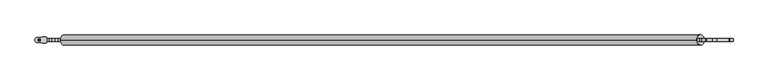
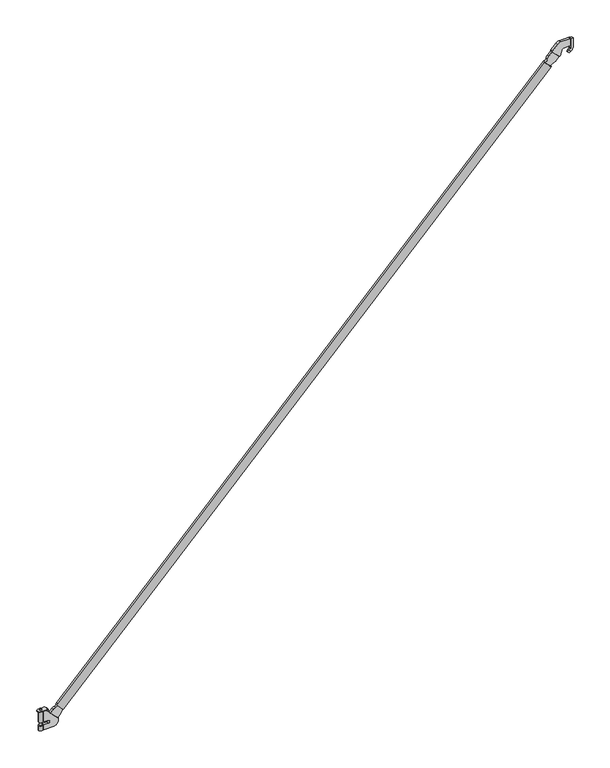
"""IFC4 building model written with IfcOpenShell, lengths in millimetres: proxy geometry, アルバトロスＡＫ階段手摺_軽 : アルバトロスＡＫ階段手摺_軽."""

from ifc_helpers import new_model, si_unit, point, frame, frame_2d, origin, place, context, project, spatial, polyline, circle_curve, trimmed, segment, composite_curve, outline, extrude, source, transform, mapped, element, save
from ifc_brep_helpers import plane_surface, cylinder_surface, revolved_surface, advanced_brep


def generic_models_849db72a(model_context):
    return source(origin(), model_context, "Body", "SolidModel", [
        extrude(outline(composite_curve([segment(trimmed(circle_curve(frame_2d((0.0, -13.6)), 13.6), [point((0.0, -27.2))], [point((0.0, 0.0))], False, "CARTESIAN"), True, "CONTINUOUS"), segment(trimmed(circle_curve(frame_2d((0.0, -13.6)), 13.6), [point((0.0, 0.0))], [point((0.0, -27.2))], False, "CARTESIAN"), True, "CONTINUOUS")], self_intersect=False)), frame((-1725.2374588, 0.0, -1771.0507162), z_axis=(0.6921431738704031, 0.0, 0.7217602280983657), x_axis=(0.0, -1.0, 0.0)), (0.0, 0.0, 1.0), 2390.0),
        extrude(outline(polyline([(5.9999999, 0.0), (5.9999999, -8.0), (0.0, -5.9891696), (0.0, -2.0108304), (5.9999999, 0.0)])), frame((-8.4686009, 4.0, -21.1588161), z_axis=(-0.7071067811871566, 0.0, 0.7071067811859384), x_axis=(0.7071067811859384, 0.0, 0.7071067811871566)), (0.0, 0.0, 1.0), 8.0),
        advanced_brep(
        [(-1797.0, 0.0, -1748.2), (-1803.0, 0.0, -1748.2), (-1802.0, 0.0, -1747.2), (-1798.0, 0.0, -1747.2), (-1797.0, 0.0, -1752.7), (-1803.0, 0.0, -1752.7), (-1800.0, 0.0, -1752.7), (-1800.0, 0.0, -1747.2)],
        [
            (0, 1, circle_curve(frame((-1800.0, 0.0, -1748.2), z_axis=(0.0, 0.0, 1.0), x_axis=(-1.0, 0.0, 0.0)), 3.0)),
            (1, 2),
            (2, 3, circle_curve(frame((-1800.0, 0.0, -1747.2), z_axis=(0.0, 0.0, -1.0), x_axis=(-1.0, 0.0, 0.0)), 2.0)),
            (3, 0),
            (1, 0, circle_curve(frame((-1800.0, 0.0, -1748.2), z_axis=(0.0, 0.0, 1.0), x_axis=(-1.0, 0.0, 0.0)), 3.0)),
            (3, 2, circle_curve(frame((-1800.0, 0.0, -1747.2), z_axis=(0.0, 0.0, -1.0), x_axis=(-1.0, 0.0, 0.0)), 2.0)),
            (4, 5, circle_curve(frame((-1800.0, 0.0, -1752.7), z_axis=(0.0, 0.0, 1.0), x_axis=(-1.0, 0.0, 0.0)), 3.0)),
            (5, 1),
            (0, 4),
            (5, 4, circle_curve(frame((-1800.0, 0.0, -1752.7), z_axis=(0.0, 0.0, 1.0), x_axis=(-1.0, 0.0, 0.0)), 3.0)),
            (6, 5),
            (4, 6),
            (2, 7),
            (7, 3),
        ],
        [
            revolved_surface(polyline([(-1802.0, 0.0, -1747.2), (-1803.0, 0.0, -1748.2)]), (-1800.0, 0.0, -1727.7), (0.0, 0.0, -1.0)),
            cylinder_surface(frame((-1800.0, 0.0, -1727.7), z_axis=(0.0, 0.0, -1.0), x_axis=(-1.0, 0.0, 0.0)), 3.0),
            plane_surface(frame((-1800.0, 0.0, -1752.7), z_axis=(0.0, 0.0, -1.0), x_axis=(-1.0, 0.0, 0.0))),
            plane_surface(frame((-1800.0, 0.0, -1747.2), z_axis=(0.0, 0.0, 1.0), x_axis=(-1.0, 0.0, 0.0))),
        ],
        [
            (0, [[1, 2, 3, 4]]),
            (0, [[5, -4, 6, -2]]),
            (1, [[7, 8, -1, 9]]),
            (1, [[10, -9, -5, -8]]),
            (2, [[11, -7, 12]]),
            (2, [[-12, -10, -11]]),
            (3, [[-3, 13, 14]]),
            (3, [[-6, -14, -13]]),
        ],
    ),
        extrude(outline(composite_curve([segment(trimmed(circle_curve(frame_2d((-1805.0, 0.0)), 6.35), [point((-1811.2985169, 0.8069599))], [point((-1805.0, 6.35))], False, "CARTESIAN"), True, "CONTINUOUS"), segment(polyline([(-1805.0, 6.35), (-1795.0, 6.35), (-1793.35, 8.0), (-1782.0, 8.0), (-1780.0, 6.0), (-1780.0, -6.0), (-1782.0, -8.0), (-1793.35, -8.0), (-1795.0, -6.35), (-1805.0, -6.35)]), True, "CONTINUOUS"), segment(trimmed(circle_curve(frame_2d((-1805.0, 0.0)), 6.35), [point((-1805.0, -6.35))], [point((-1811.2985169, 0.8069599))], False, "CARTESIAN"), True, "CONTINUOUS")], self_intersect=False)), frame((0.0, 0.0, -1755.0), z_axis=(0.0, 0.0, 1.0), x_axis=(1.0, 0.0, 0.0)), (0.0, 0.0, 1.0), 2.3),
        extrude(outline(composite_curve([segment(trimmed(circle_curve(frame_2d((-1800.0, 0.0)), 6.4), [point((-1806.4, 0.0))], [point((-1793.6, 0.0))], False, "CARTESIAN"), True, "CONTINUOUS"), segment(trimmed(circle_curve(frame_2d((-1800.0, 0.0)), 6.4), [point((-1793.6, 0.0))], [point((-1806.4, 0.0))], False, "CARTESIAN"), True, "CONTINUOUS")], self_intersect=False)), frame((0.0, 0.0, -1793.0), z_axis=(0.0, 0.0, 1.0), x_axis=(1.0, 0.0, 0.0)), (0.0, 0.0, 1.0), 38.0),
        extrude(outline(composite_curve([segment(trimmed(circle_curve(frame_2d((-1800.0, 0.0)), 6.4), [point((-1806.4, 0.0))], [point((-1793.6, 0.0))], False, "CARTESIAN"), True, "CONTINUOUS"), segment(trimmed(circle_curve(frame_2d((-1800.0, 0.0)), 6.4), [point((-1793.6, 0.0))], [point((-1806.4, 0.0))], False, "CARTESIAN"), True, "CONTINUOUS")], self_intersect=False)), frame((0.0, 0.0, -1823.0), z_axis=(0.0, 0.0, 1.0), x_axis=(1.0, 0.0, 0.0)), (0.0, 0.0, 1.0), 17.0),
        extrude(outline(composite_curve([segment(trimmed(circle_curve(frame_2d((-1800.0, 0.0)), 4.0), [point((-1804.0, 0.0))], [point((-1796.0, 0.0))], False, "CARTESIAN"), True, "CONTINUOUS"), segment(trimmed(circle_curve(frame_2d((-1800.0, 0.0)), 4.0), [point((-1796.0, 0.0))], [point((-1804.0, 0.0))], False, "CARTESIAN"), True, "CONTINUOUS")], self_intersect=False)), frame((0.0, 0.0, -1806.0), z_axis=(0.0, 0.0, 1.0), x_axis=(1.0, 0.0, 0.0)), (0.0, 0.0, 1.0), 13.0),
        advanced_brep(
        [(-1793.65, -4.0, -1793.0), (-1790.65, -4.0, -1796.0), (-1775.65, -4.0, -1796.0), (-1775.65, -4.0, -1806.0), (-1791.65, -4.0, -1806.0), (-1793.65, -4.0, -1808.0), (-1793.65, -4.0, -1821.0), (-1791.65, -4.0, -1823.0), (-1757.65, -4.0, -1823.0), (-1742.65, -4.0, -1808.0), (-1742.65, -4.0, -1798.8468906), (-1743.2581744, -4.0, -1797.410638), (-1774.129564, -4.0, -1767.4941802), (-1775.65, -4.0, -1763.9035487), (-1775.65, -4.0, -1758.0), (-1778.65, -4.0, -1755.0), (-1791.65, -4.0, -1755.0), (-1793.65, -4.0, -1757.0), (-1793.65, 4.0, -1793.0), (-1793.65, 4.0, -1757.0), (-1791.65, 4.0, -1755.0), (-1778.65, 4.0, -1755.0), (-1775.65, 4.0, -1758.0), (-1775.65, 4.0, -1763.9035487), (-1774.129564, 4.0, -1767.4941802), (-1743.2581744, 4.0, -1797.410638), (-1742.65, 4.0, -1798.8468906), (-1742.65, 4.0, -1808.0), (-1757.65, 4.0, -1823.0), (-1791.65, 4.0, -1823.0), (-1793.65, 4.0, -1821.0), (-1793.65, 4.0, -1808.0), (-1791.65, 4.0, -1806.0), (-1775.65, 4.0, -1806.0), (-1775.7, 4.0, -1796.00025), (-1790.65, 4.0, -1796.0)],
        [
            (0, 1),
            (1, 2),
            (2, 3, circle_curve(frame((-1775.65, -4.0, -1801.0), z_axis=(0.0, 1.0, 0.0), x_axis=(1.0, 0.0, 0.0)), 5.0)),
            (3, 4),
            (4, 5, circle_curve(frame((-1791.65, -4.0, -1808.0), z_axis=(0.0, -1.0, 0.0), x_axis=(1.0, 0.0, 0.0)), 2.0)),
            (5, 6),
            (6, 7, circle_curve(frame((-1791.65, -4.0, -1821.0), z_axis=(0.0, -1.0, 0.0), x_axis=(1.0, 0.0, 0.0)), 2.0)),
            (7, 8),
            (8, 9, circle_curve(frame((-1757.65, -4.0, -1808.0), z_axis=(0.0, -1.0, 0.0), x_axis=(1.0, 0.0, 0.0)), 15.0)),
            (9, 10),
            (10, 11, circle_curve(frame((-1744.65, -4.0, -1798.8468906), z_axis=(0.0, -1.0, 0.0), x_axis=(1.0, 0.0, 0.0)), 2.0)),
            (11, 12),
            (12, 13, circle_curve(frame((-1770.65, -4.0, -1763.9035487), z_axis=(0.0, 1.0, 0.0), x_axis=(1.0, 0.0, 0.0)), 5.0)),
            (13, 14),
            (14, 15, circle_curve(frame((-1778.65, -4.0, -1758.0), z_axis=(0.0, -1.0, 0.0), x_axis=(1.0, 0.0, 0.0)), 3.0)),
            (15, 16),
            (16, 17, circle_curve(frame((-1791.65, -4.0, -1757.0), z_axis=(0.0, -1.0, 0.0), x_axis=(1.0, 0.0, 0.0)), 2.0)),
            (17, 0),
            (18, 19),
            (19, 20, circle_curve(frame((-1791.65, 4.0, -1757.0), z_axis=(0.0, 1.0, 0.0), x_axis=(1.0, 0.0, 0.0)), 2.0)),
            (20, 21),
            (21, 22, circle_curve(frame((-1778.65, 4.0, -1758.0), z_axis=(0.0, 1.0, 0.0), x_axis=(1.0, 0.0, 0.0)), 3.0)),
            (22, 23),
            (23, 24, circle_curve(frame((-1770.65, 4.0, -1763.9035487), z_axis=(0.0, -1.0, 0.0), x_axis=(1.0, 0.0, 0.0)), 5.0)),
            (24, 25),
            (25, 26, circle_curve(frame((-1744.65, 4.0, -1798.8468906), z_axis=(0.0, 1.0, 0.0), x_axis=(1.0, 0.0, 0.0)), 2.0)),
            (26, 27),
            (27, 28, circle_curve(frame((-1757.65, 4.0, -1808.0), z_axis=(0.0, 1.0, 0.0), x_axis=(1.0, 0.0, 0.0)), 15.0)),
            (28, 29),
            (29, 30, circle_curve(frame((-1791.65, 4.0, -1821.0), z_axis=(0.0, 1.0, 0.0), x_axis=(1.0, 0.0, 0.0)), 2.0)),
            (30, 31),
            (31, 32, circle_curve(frame((-1791.65, 4.0, -1808.0), z_axis=(0.0, 1.0, 0.0), x_axis=(1.0, 0.0, 0.0)), 2.0)),
            (32, 33),
            (33, 34, circle_curve(frame((-1775.65, 4.0, -1801.0), z_axis=(0.0, -1.0, 0.0), x_axis=(1.0, 0.0, 0.0)), 5.0)),
            (34, 35),
            (35, 18),
            (0, 18),
            (35, 1),
            (34, 2),
            (33, 3),
            (32, 4),
            (31, 5),
            (30, 6),
            (29, 7),
            (28, 8),
            (27, 9),
            (26, 10),
            (25, 11),
            (24, 12),
            (23, 13),
            (22, 14),
            (21, 15),
            (20, 16),
            (19, 17),
        ],
        [
            plane_surface(frame((-1790.65, -4.0, -1796.0), z_axis=(0.0, -1.0, 0.0), x_axis=(0.7071067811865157, 0.0, -0.7071067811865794))),
            plane_surface(frame((-1790.65, 4.0, -1796.0), z_axis=(0.0, 1.0, 0.0), x_axis=(-0.7071067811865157, 0.0, 0.7071067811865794))),
            plane_surface(frame((-1793.65, -4.0, -1793.0), z_axis=(-0.7071067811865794, 0.0, -0.7071067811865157), x_axis=(0.0, 1.0, 0.0))),
            plane_surface(frame((-1790.65, -4.0, -1796.0), z_axis=(0.0, 0.0, -1.0), x_axis=(0.0, 1.0, 0.0))),
            revolved_surface(polyline([(-1770.65, 4.0, -1801.0), (-1770.65, -4.0, -1801.0)]), (-1775.65, 4.0, -1801.0), (0.0, 1.0, 0.0)),
            plane_surface(frame((-1775.65, -4.0, -1806.0), z_axis=(0.0, 0.0, 1.0), x_axis=(0.0, 1.0, 0.0))),
            cylinder_surface(frame((-1791.65, 4.0, -1808.0), z_axis=(0.0, -1.0, 0.0), x_axis=(1.0, 0.0, 0.0)), 2.0),
            plane_surface(frame((-1793.65, -4.0, -1808.0), z_axis=(-1.0, 0.0, -1.1245158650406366e-12), x_axis=(0.0, 1.0, 0.0))),
            cylinder_surface(frame((-1791.65, 4.0, -1821.0), z_axis=(0.0, -1.0, 0.0), x_axis=(1.0, 0.0, 0.0)), 2.0),
            plane_surface(frame((-1791.65, -4.0, -1823.0), z_axis=(0.0, 0.0, -1.0), x_axis=(0.0, 1.0, 0.0))),
            cylinder_surface(frame((-1757.65, 4.0, -1808.0), z_axis=(0.0, -1.0, 0.0), x_axis=(1.0, 0.0, 0.0)), 15.0),
            plane_surface(frame((-1742.65, -4.0, -1808.0), z_axis=(1.0, 0.0, 0.0), x_axis=(0.0, 1.0, 0.0))),
            cylinder_surface(frame((-1744.65, 4.0, -1798.8468906), z_axis=(0.0, -1.0, 0.0), x_axis=(1.0, 0.0, 0.0)), 2.0),
            plane_surface(frame((-1743.2581744, -4.0, -1797.410638), z_axis=(0.6959127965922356, 0.0, 0.7181262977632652), x_axis=(0.0, 1.0, 0.0))),
            revolved_surface(polyline([(-1765.65, 4.0, -1763.9035487), (-1765.65, -4.0, -1763.9035487)]), (-1770.65, 4.0, -1763.9035487), (0.0, 1.0, 0.0)),
            plane_surface(frame((-1775.65, -4.0, -1763.9035487), z_axis=(1.0, 0.0, 0.0), x_axis=(0.0, 1.0, 0.0))),
            cylinder_surface(frame((-1778.65, 4.0, -1758.0), z_axis=(0.0, -1.0, 0.0), x_axis=(1.0, 0.0, 0.0)), 3.0),
            plane_surface(frame((-1778.65, -4.0, -1755.0), z_axis=(0.0, 0.0, 1.0), x_axis=(0.0, 1.0, 0.0))),
            cylinder_surface(frame((-1791.65, 4.0, -1757.0), z_axis=(0.0, -1.0, 0.0), x_axis=(1.0, 0.0, 0.0)), 2.0),
            plane_surface(frame((-1793.65, -4.0, -1757.0), z_axis=(-1.0, 0.0, 0.0), x_axis=(0.0, 1.0, 0.0))),
        ],
        [
            (0, [[1, 2, 3, 4, 5, 6, 7, 8, 9, 10, 11, 12, 13, 14, 15, 16, 17, 18]]),
            (1, [[19, 20, 21, 22, 23, 24, 25, 26, 27, 28, 29, 30, 31, 32, 33, 34, 35, 36]]),
            (2, [[-1, 37, -36, 38]]),
            (3, [[-2, -38, -35, 39]]),
            (4, [[-3, -39, -34, 40]]),
            (5, [[-4, -40, -33, 41]]),
            (6, [[-5, -41, -32, 42]]),
            (7, [[-6, -42, -31, 43]]),
            (8, [[-7, -43, -30, 44]]),
            (9, [[-8, -44, -29, 45]]),
            (10, [[-9, -45, -28, 46]]),
            (11, [[-10, -46, -27, 47]]),
            (12, [[-11, -47, -26, 48]]),
            (13, [[-12, -48, -25, 49]]),
            (14, [[-13, -49, -24, 50]]),
            (15, [[-14, -50, -23, 51]]),
            (16, [[-15, -51, -22, 52]]),
            (17, [[-16, -52, -21, 53]]),
            (18, [[-17, -53, -20, 54]]),
            (19, [[-18, -54, -19, -37]]),
        ],
    ),
        advanced_brep(
        [(-66.4321236, -4.0, 5.6321638), (-66.3723001, -4.0, 2.803792), (-63.5819308, -4.0, 0.13011), (-63.0472996, -4.0, -0.5563383), (-45.278795, -4.0, -17.5818035), (-42.6553945, -4.0, -19.939903), (-39.3778097, -4.0, -19.1409139), (-32.1921587, -4.0, 1.9667971), (-29.352211, -4.0, 4.0), (-7.0, -4.0, 4.0), (-4.0, -4.0, 7.0), (-4.0, -4.0, 27.0), (-6.0, -4.0, 29.0), (-37.6251322, -4.0, 29.0), (-48.4515356, -4.0, 24.3821476), (-66.4321236, 4.0, 5.6321638), (-48.4515356, 4.0, 24.3821476), (-37.6251322, 4.0, 29.0), (-6.0, 4.0, 29.0), (-4.0, 4.0, 27.0), (-4.0, 4.0, 7.0), (-7.0, 4.0, 4.0), (-29.352211, 4.0, 4.0), (-32.1921587, 4.0, 1.9667971), (-39.3778097, 4.0, -19.1409139), (-42.6553945, 4.0, -19.939903), (-45.278795, 4.0, -17.5818035), (-63.0714942, 4.0, -0.5331554), (-63.5819308, 4.0, 0.13011), (-66.3723, 4.0, 2.8037922)],
        [
            (0, 1, circle_curve(frame((-64.9886032, -4.0, 4.2478775), z_axis=(0.0, -1.0, 0.0), x_axis=(1.0, 0.0, 0.0)), 2.0)),
            (1, 2),
            (2, 3),
            (3, 4),
            (4, 5),
            (5, 6, circle_curve(frame((-41.2711082, -4.0, -18.4963825), z_axis=(0.0, -1.0, 0.0), x_axis=(1.0, 0.0, 0.0)), 2.0)),
            (6, 7),
            (7, 8, circle_curve(frame((-29.352211, -4.0, 1.0), z_axis=(0.0, 1.0, 0.0), x_axis=(1.0, 0.0, 0.0)), 3.0)),
            (8, 9),
            (9, 10),
            (10, 11),
            (11, 12, circle_curve(frame((-6.0, -4.0, 27.0), z_axis=(0.0, -1.0, 0.0), x_axis=(1.0, 0.0, 0.0)), 2.0)),
            (12, 13),
            (13, 14, circle_curve(frame((-37.6251322, -4.0, 14.0), z_axis=(0.0, -1.0, 0.0), x_axis=(1.0, 0.0, 0.0)), 15.0)),
            (14, 0),
            (15, 16),
            (16, 17, circle_curve(frame((-37.6251322, 4.0, 14.0), z_axis=(0.0, 1.0, 0.0), x_axis=(1.0, 0.0, 0.0)), 15.0)),
            (17, 18),
            (18, 19, circle_curve(frame((-6.0, 4.0, 27.0), z_axis=(0.0, 1.0, 0.0), x_axis=(1.0, 0.0, 0.0)), 2.0)),
            (19, 20),
            (20, 21),
            (21, 22),
            (22, 23, circle_curve(frame((-29.352211, 4.0, 1.0), z_axis=(0.0, -1.0, 0.0), x_axis=(1.0, 0.0, 0.0)), 3.0)),
            (23, 24),
            (24, 25, circle_curve(frame((-41.2711082, 4.0, -18.4963825), z_axis=(0.0, 1.0, 0.0), x_axis=(1.0, 0.0, 0.0)), 2.0)),
            (25, 26),
            (26, 27),
            (27, 28),
            (28, 29),
            (29, 15, circle_curve(frame((-64.9886032, 4.0, 4.2478775), z_axis=(0.0, 1.0, 0.0), x_axis=(1.0, 0.0, 0.0)), 2.0)),
            (0, 15),
            (29, 1),
            (28, 2),
            (27, 3),
            (26, 4),
            (25, 5),
            (24, 6),
            (23, 7),
            (22, 8),
            (21, 9),
            (20, 10),
            (19, 11),
            (18, 12),
            (17, 13),
            (16, 14),
        ],
        [
            plane_surface(frame((-62.9886032, -4.0, 4.2478775), z_axis=(0.0, -1.0, 0.0), x_axis=(0.0, 0.0, 1.0))),
            plane_surface(frame((-62.9886032, 4.0, 4.2478775), z_axis=(0.0, 1.0, 0.0), x_axis=(0.0, 0.0, -1.0))),
            cylinder_surface(frame((-64.9886032, 4.0, 4.2478775), z_axis=(0.0, -1.0, 0.0), x_axis=(1.0, 0.0, 0.0)), 2.0),
            plane_surface(frame((-66.3723, -4.0, 2.8037922), z_axis=(-0.6918484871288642, 0.0, -0.7220427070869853), x_axis=(0.0, 1.0, 0.0))),
            plane_surface(frame((-63.5819308, -4.0, 0.13011), z_axis=(-0.7889470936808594, 0.0, -0.6144611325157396), x_axis=(0.0, 1.0, 0.0))),
            plane_surface(frame((-63.0714942, -4.0, -0.5331554), z_axis=(-0.691848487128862, 0.0, -0.7220427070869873), x_axis=(0.0, 1.0, 0.0))),
            plane_surface(frame((-45.278795, -4.0, -17.5818035), z_axis=(-0.6685008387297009, 0.0, -0.7437113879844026), x_axis=(0.0, 1.0, 0.0))),
            cylinder_surface(frame((-41.2711082, 4.0, -18.4963825), z_axis=(0.0, -1.0, 0.0), x_axis=(1.0, 0.0, 0.0)), 2.0),
            plane_surface(frame((-39.3778097, -4.0, -19.1409139), z_axis=(0.9466492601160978, 0.0, -0.3222656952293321), x_axis=(0.0, 1.0, 0.0))),
            revolved_surface(polyline([(-26.352211, 4.0, 1.0), (-26.352211, -4.0, 1.0)]), (-29.352211, 4.0, 1.0), (0.0, 1.0, 0.0)),
            plane_surface(frame((-29.352211, -4.0, 4.0), z_axis=(0.0, 0.0, -1.0), x_axis=(0.0, 1.0, 0.0))),
            plane_surface(frame((-7.0, -4.0, 4.0), z_axis=(0.7071067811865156, 0.0, -0.7071067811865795), x_axis=(0.0, 1.0, 0.0))),
            plane_surface(frame((-4.0, -4.0, 7.0), z_axis=(1.0, 0.0, 0.0), x_axis=(0.0, 1.0, 0.0))),
            cylinder_surface(frame((-6.0, 4.0, 27.0), z_axis=(0.0, -1.0, 0.0), x_axis=(1.0, 0.0, 0.0)), 2.0),
            plane_surface(frame((-6.0, -4.0, 29.0), z_axis=(0.0, 0.0, 1.0), x_axis=(0.0, 1.0, 0.0))),
            cylinder_surface(frame((-37.6251322, 4.0, 14.0), z_axis=(0.0, -1.0, 0.0), x_axis=(1.0, 0.0, 0.0)), 15.0),
            plane_surface(frame((-48.4515356, -4.0, 24.3821476), z_axis=(-0.7217602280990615, 0.0, 0.6921431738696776), x_axis=(0.0, 1.0, 0.0))),
        ],
        [
            (0, [[1, 2, 3, 4, 5, 6, 7, 8, 9, 10, 11, 12, 13, 14, 15]]),
            (1, [[16, 17, 18, 19, 20, 21, 22, 23, 24, 25, 26, 27, 28, 29, 30]]),
            (2, [[-1, 31, -30, 32]]),
            (3, [[-2, -32, -29, 33]]),
            (4, [[-3, -33, -28, 34]]),
            (5, [[-4, -34, -27, 35]]),
            (6, [[-5, -35, -26, 36]]),
            (7, [[-6, -36, -25, 37]]),
            (8, [[-7, -37, -24, 38]]),
            (9, [[-8, -38, -23, 39]]),
            (10, [[-9, -39, -22, 40]]),
            (11, [[-10, -40, -21, 41]]),
            (12, [[-11, -41, -20, 42]]),
            (13, [[-12, -42, -19, 43]]),
            (14, [[-13, -43, -18, 44]]),
            (15, [[-14, -44, -17, 45]]),
            (16, [[-15, -45, -16, -31]]),
        ],
    ),
        extrude(outline(composite_curve([segment(polyline([(29.0, -4.0), (-4.1005051, -4.0)]), True, "CONTINUOUS"), segment(trimmed(circle_curve(frame_2d((-4.1005051, -7.0)), 3.0), [point((-4.1005051, -4.0))], [point((-6.2218254, -4.8786797))], True, "CARTESIAN"), True, "CONTINUOUS"), segment(polyline([(-6.2218254, -4.8786797), (-11.2426407, -9.8994949), (-16.8994949, -4.2426407), (-11.8786797, 0.7781746)]), True, "CONTINUOUS"), segment(trimmed(circle_curve(frame_2d((-4.1005051, -7.0)), 11.0), [point((-11.8786797, 0.7781746))], [point((-4.1005051, 4.0))], False, "CARTESIAN"), True, "CONTINUOUS"), segment(polyline([(-4.1005051, 4.0), (29.0, 4.0), (29.0, -4.0)]), True, "CONTINUOUS")], self_intersect=False)), frame((0.0, -4.0, 0.0), z_axis=(0.0, 1.0, 0.0), x_axis=(0.0, 0.0, 1.0)), (0.0, 0.0, 1.0), 8.0),
        extrude(outline(composite_curve([segment(polyline([(3.2931601, -67.064801), (-7.95392, -77.8415533)]), True, "CONTINUOUS"), segment(trimmed(circle_curve(frame_2d((-21.7908898, -63.4006991)), 20.0), [point((-7.95392, -77.8415533))], [point((-17.0682481, -82.8351185))], False, "CARTESIAN"), True, "CONTINUOUS"), segment(trimmed(circle_curve(frame_2d((-12.3456065, -102.2695378)), 20.0), [point((-17.0682481, -82.8351185))], [point((-28.9006605, -91.0476759))], True, "CARTESIAN"), True, "CONTINUOUS"), segment(polyline([(-28.9006605, -91.0476759), (-46.5025438, -73.4457927)]), True, "CONTINUOUS"), segment(trimmed(circle_curve(frame_2d((-55.9404002, -55.8126742)), 20.0), [point((-46.5025438, -73.4457927))], [point((-36.7253149, -61.3606917))], True, "CARTESIAN"), True, "CONTINUOUS"), segment(trimmed(circle_curve(frame_2d((-17.5102297, -66.9087092)), 20.0), [point((-36.7253149, -61.3606917))], [point((-31.3471994, -52.4678551))], False, "CARTESIAN"), True, "CONTINUOUS"), segment(polyline([(-31.3471994, -52.4678551), (-20.5794169, -42.1503573), (3.2931601, -67.064801)]), True, "CONTINUOUS")], self_intersect=False)), frame((0.0, -4.0, 0.0), z_axis=(0.0, 1.0, 0.0), x_axis=(0.0, 0.0, 1.0)), (0.0, 0.0, 1.0), 8.0),
        extrude(outline(composite_curve([segment(polyline([(-1763.4285988, -1760.0412987), (-1772.6158757, -1768.8443842), (-1796.4930857, -1744.205015), (-1785.399414, -1733.5752559)]), True, "CONTINUOUS"), segment(trimmed(circle_curve(frame_2d((-1771.5624442, -1748.0161101)), 20.0), [point((-1785.399414, -1733.5752559))], [point((-1776.2850859, -1728.5816907))], False, "CARTESIAN"), True, "CONTINUOUS"), segment(trimmed(circle_curve(frame_2d((-1781.0077276, -1709.1472714)), 20.0), [point((-1776.2850859, -1728.5816907))], [point((-1767.6869141, -1724.0655799))], True, "CARTESIAN"), True, "CONTINUOUS"), segment(polyline([(-1767.6869141, -1724.0655799), (-1750.9610215, -1740.7914724)]), True, "CONTINUOUS"), segment(trimmed(circle_curve(frame_2d((-1738.835398, -1756.6964796)), 20.0), [point((-1750.9610215, -1740.7914724))], [point((-1758.0504832, -1751.1484621))], True, "CARTESIAN"), True, "CONTINUOUS"), segment(trimmed(circle_curve(frame_2d((-1777.2655685, -1745.6004446)), 20.0), [point((-1758.0504832, -1751.1484621))], [point((-1763.4285988, -1760.0412987))], False, "CARTESIAN"), True, "CONTINUOUS")], self_intersect=False)), frame((0.0, -4.0, 0.0), z_axis=(0.0, 1.0, 0.0), x_axis=(0.0, 0.0, 1.0)), (0.0, 0.0, 1.0), 8.0),
    ])


if __name__ == "__main__":
    model = new_model("IFC4")
    model_context = context("Model", 3, world=origin())
    ifc_project = project(units=[si_unit("LENGTHUNIT", "METRE", prefix="MILLI")], contexts=[model_context])
    site = spatial("IfcSite", under=ifc_project)
    building = spatial("IfcBuilding", under=site)
    placement = place(None, origin())
    generic_models_shape = generic_models_849db72a(model_context)
    element("IfcBuildingElementProxy", 1, Name="アルバトロスＡＫ階段手摺_軽 : アルバトロスＡＫ階段手摺_軽", ObjectType="アルバトロスＡＫ階段手摺_軽 : アルバトロスＡＫ階段手摺_軽", at=placement, inside=building, context=model_context, shape_type="MappedRepresentation", body=[
        mapped(generic_models_shape, transform((0.0, 0.0, 0.0), x_axis=(1.0, 0.0, 0.0), y_axis=(0.0, 1.0, 0.0), z_axis=(0.0, 0.0, 1.0))),
    ])
    save(model, "model.ifc")
